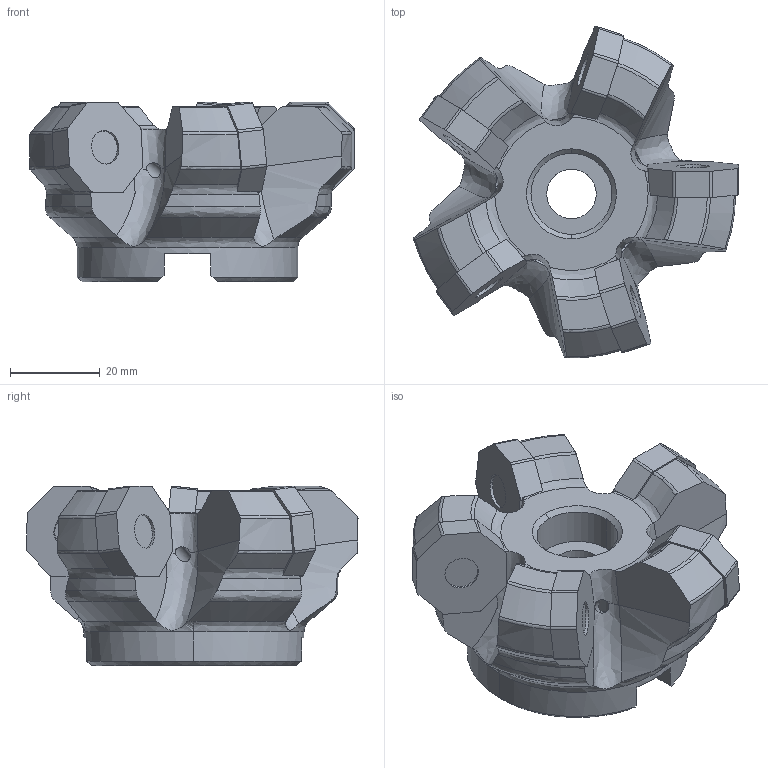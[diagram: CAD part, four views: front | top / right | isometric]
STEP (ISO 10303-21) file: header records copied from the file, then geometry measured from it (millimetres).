
FILE_DESCRIPTION (( 'STEP AP214' ), '1' );
FILE_NAME ('01-0602.STEP', '2022-08-16T22:40:18', ( '' ), ( '' ), 'SwSTEP 2.0', 'SolidWorks 2021', '' );
FILE_SCHEMA (( 'AUTOMOTIVE_DESIGN' ));
Length unit declared in the file: inch
Products named in the file (1): 01-0602
Bounding box: 72.29 x 73.82 x 40.01 mm (x, y, z)
Volume: 71535.3 mm3; surface area: 16949 mm2
Topology: 1 solids, 1 shells, 255 faces, 767 edges, 511 vertices
Faces by surface type: cylinder 87, plane 86, bspline 54, cone 28
Entity records: 10493 total; most frequent: CARTESIAN_POINT 4216, ORIENTED_EDGE 1534, DIRECTION 1058, EDGE_CURVE 767, VERTEX_POINT 511, AXIS2_PLACEMENT_3D 411, B_SPLINE_CURVE_WITH_KNOTS 282, EDGE_LOOP 264
